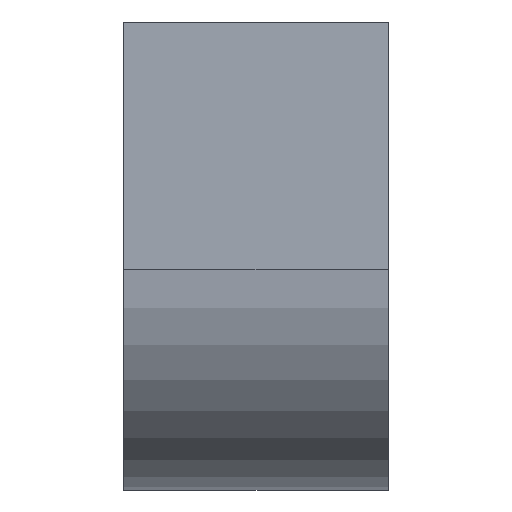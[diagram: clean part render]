
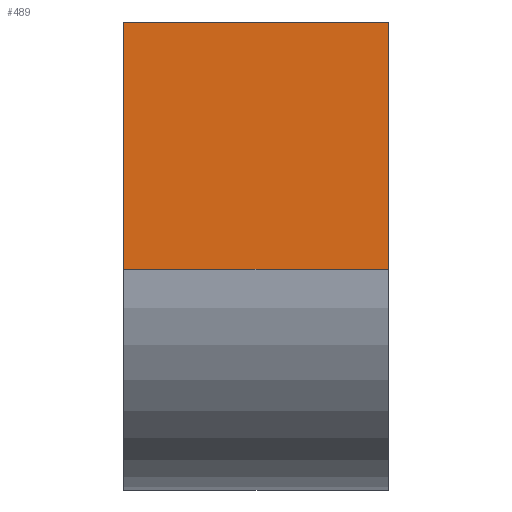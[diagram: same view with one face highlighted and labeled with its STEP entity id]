
A CAD part, front view. The second image highlights one B-rep face of the part: STEP entity #489.
In plain terms, the highlighted planar face has unit normal (0, -1, 0).
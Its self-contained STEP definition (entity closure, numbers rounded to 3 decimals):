
#17 = EDGE_CURVE ( 'NONE', #249, #1581, #1217, .T. ) ;
#56 = ORIENTED_EDGE ( 'NONE', *, *, #311, .F. ) ;
#77 = ORIENTED_EDGE ( 'NONE', *, *, #17, .F. ) ;
#92 = DIRECTION ( 'NONE',  ( 0., 0., -1. ) ) ;
#112 = VERTEX_POINT ( 'NONE', #1396 ) ;
#142 = EDGE_CURVE ( 'NONE', #1251, #1581, #593, .T. ) ;
#186 = VECTOR ( 'NONE', #1146, 1000. ) ;
#192 = EDGE_LOOP ( 'NONE', ( #590, #77, #56, #707 ) ) ;
#230 = CARTESIAN_POINT ( 'NONE',  ( 75., -100., 0. ) ) ;
#249 = VERTEX_POINT ( 'NONE', #754 ) ;
#307 = CARTESIAN_POINT ( 'NONE',  ( 75., -100., -140. ) ) ;
#311 = EDGE_CURVE ( 'NONE', #112, #249, #490, .T. ) ;
#372 = DIRECTION ( 'NONE',  ( 0., 0., -1. ) ) ;
#450 = CARTESIAN_POINT ( 'NONE',  ( 75., -100., -140. ) ) ;
#458 = CARTESIAN_POINT ( 'NONE',  ( -75., -100., 0. ) ) ;
#468 = PLANE ( 'NONE',  #859 ) ;
#474 = VECTOR ( 'NONE', #92, 1000. ) ;
#489 = ADVANCED_FACE ( 'NONE', ( #686 ), #468, .F. ) ;
#490 = LINE ( 'NONE', #1668, #826 ) ;
#590 = ORIENTED_EDGE ( 'NONE', *, *, #142, .T. ) ;
#593 = LINE ( 'NONE', #996, #474 ) ;
#686 = FACE_OUTER_BOUND ( 'NONE', #192, .T. ) ;
#707 = ORIENTED_EDGE ( 'NONE', *, *, #1252, .T. ) ;
#715 = DIRECTION ( 'NONE',  ( 0., 0., 1. ) ) ;
#754 = CARTESIAN_POINT ( 'NONE',  ( 75., -100., -140. ) ) ;
#826 = VECTOR ( 'NONE', #372, 1000. ) ;
#859 = AXIS2_PLACEMENT_3D ( 'NONE', #450, #1650, #715 ) ;
#996 = CARTESIAN_POINT ( 'NONE',  ( -75., -100., -140. ) ) ;
#1056 = CARTESIAN_POINT ( 'NONE',  ( -75., -100., -140. ) ) ;
#1060 = DIRECTION ( 'NONE',  ( -1., 0., 0. ) ) ;
#1146 = DIRECTION ( 'NONE',  ( -1., 0., 0. ) ) ;
#1217 = LINE ( 'NONE', #307, #1541 ) ;
#1251 = VERTEX_POINT ( 'NONE', #458 ) ;
#1252 = EDGE_CURVE ( 'NONE', #112, #1251, #1398, .T. ) ;
#1396 = CARTESIAN_POINT ( 'NONE',  ( 75., -100., 0. ) ) ;
#1398 = LINE ( 'NONE', #230, #186 ) ;
#1541 = VECTOR ( 'NONE', #1060, 1000. ) ;
#1581 = VERTEX_POINT ( 'NONE', #1056 ) ;
#1650 = DIRECTION ( 'NONE',  ( 0., 1., 0. ) ) ;
#1668 = CARTESIAN_POINT ( 'NONE',  ( 75., -100., -140. ) ) ;
